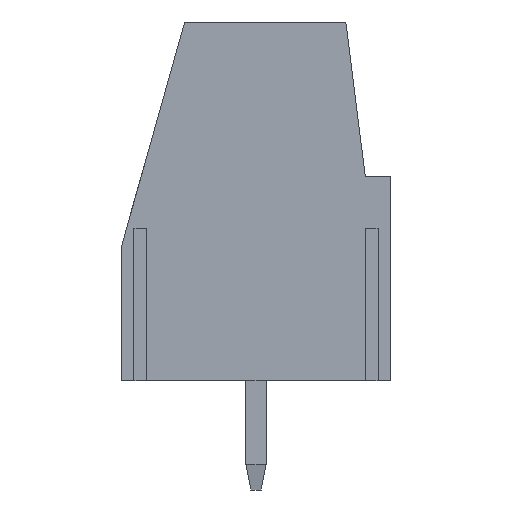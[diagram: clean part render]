
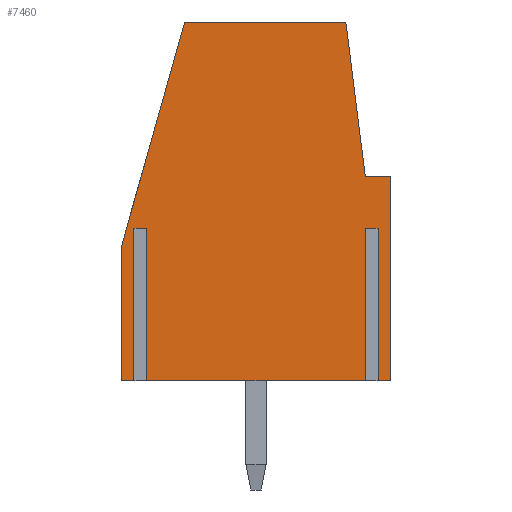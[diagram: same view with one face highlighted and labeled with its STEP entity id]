
A CAD part, left-side view. The second image highlights one B-rep face of the part: STEP entity #7460.
In plain terms, the highlighted planar face has unit normal (-1, 0, 0).
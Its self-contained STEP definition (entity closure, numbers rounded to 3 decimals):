
#285 = ORIENTED_EDGE ( 'NONE', *, *, #13137, .F. ) ;
#1071 = CARTESIAN_POINT ( 'NONE',  ( -5., 2.808, 14.1 ) ) ;
#1452 = DIRECTION ( 'NONE',  ( 0., 0., -1. ) ) ;
#1562 = EDGE_CURVE ( 'NONE', #9600, #3624, #3557, .T. ) ;
#1738 = EDGE_CURVE ( 'NONE', #4531, #14447, #10428, .T. ) ;
#1766 = ORIENTED_EDGE ( 'NONE', *, *, #15287, .F. ) ;
#2155 = CARTESIAN_POINT ( 'NONE',  ( -5., -5.3, 0. ) ) ;
#2530 = VERTEX_POINT ( 'NONE', #11000 ) ;
#2677 = VECTOR ( 'NONE', #3394, 1000. ) ;
#2718 = VECTOR ( 'NONE', #18941, 1000. ) ;
#3104 = DIRECTION ( 'NONE',  ( 0., 0., 1. ) ) ;
#3126 = LINE ( 'NONE', #3402, #7138 ) ;
#3267 = LINE ( 'NONE', #9196, #17893 ) ;
#3394 = DIRECTION ( 'NONE',  ( 0., 0., -1. ) ) ;
#3402 = CARTESIAN_POINT ( 'NONE',  ( -5., -5.3, 0. ) ) ;
#3556 = LINE ( 'NONE', #18474, #18585 ) ;
#3557 = LINE ( 'NONE', #4860, #18506 ) ;
#3624 = VERTEX_POINT ( 'NONE', #12612 ) ;
#3928 = ORIENTED_EDGE ( 'NONE', *, *, #16077, .F. ) ;
#3952 = ORIENTED_EDGE ( 'NONE', *, *, #6801, .F. ) ;
#4221 = EDGE_LOOP ( 'NONE', ( #17562, #12452, #19262, #16808, #18266, #3952, #285, #13436, #15143, #1766, #6883, #5419, #3928, #19044, #14381 ) ) ;
#4261 = CARTESIAN_POINT ( 'NONE',  ( -5., -5.3, 8.031 ) ) ;
#4531 = VERTEX_POINT ( 'NONE', #15313 ) ;
#4860 = CARTESIAN_POINT ( 'NONE',  ( -5., 4.3, 0. ) ) ;
#4911 = VERTEX_POINT ( 'NONE', #15836 ) ;
#5089 = CARTESIAN_POINT ( 'NONE',  ( -5., -5.3, 8.031 ) ) ;
#5208 = LINE ( 'NONE', #2155, #13691 ) ;
#5409 = DIRECTION ( 'NONE',  ( 0., 1., 0. ) ) ;
#5419 = ORIENTED_EDGE ( 'NONE', *, *, #1738, .F. ) ;
#5459 = EDGE_CURVE ( 'NONE', #6695, #7874, #7782, .T. ) ;
#5499 = EDGE_CURVE ( 'NONE', #14447, #9971, #11354, .T. ) ;
#5760 = CARTESIAN_POINT ( 'NONE',  ( -5., -4.296, 8.031 ) ) ;
#5913 = DIRECTION ( 'NONE',  ( 0., 0., 1. ) ) ;
#5922 = CARTESIAN_POINT ( 'NONE',  ( -5., 5.3, 5.242 ) ) ;
#6196 = VERTEX_POINT ( 'NONE', #5760 ) ;
#6390 = EDGE_CURVE ( 'NONE', #16343, #6196, #6525, .T. ) ;
#6394 = CARTESIAN_POINT ( 'NONE',  ( -5., -4.3, 6. ) ) ;
#6525 = LINE ( 'NONE', #17189, #12618 ) ;
#6695 = VERTEX_POINT ( 'NONE', #6394 ) ;
#6719 = CARTESIAN_POINT ( 'NONE',  ( -5., -4.8, 6. ) ) ;
#6801 = EDGE_CURVE ( 'NONE', #14111, #2530, #16204, .T. ) ;
#6815 = CARTESIAN_POINT ( 'NONE',  ( -5., 0., 0. ) ) ;
#6883 = ORIENTED_EDGE ( 'NONE', *, *, #5499, .F. ) ;
#6911 = DIRECTION ( 'NONE',  ( 1., 0., 0. ) ) ;
#7138 = VECTOR ( 'NONE', #9233, 1000. ) ;
#7460 = ADVANCED_FACE ( 'NONE', ( #12429 ), #8050, .F. ) ;
#7557 = DIRECTION ( 'NONE',  ( 0., 1., 0. ) ) ;
#7561 = CARTESIAN_POINT ( 'NONE',  ( -5., -5.3, 0. ) ) ;
#7782 = LINE ( 'NONE', #15400, #10096 ) ;
#7874 = VERTEX_POINT ( 'NONE', #10811 ) ;
#8005 = CARTESIAN_POINT ( 'NONE',  ( -5., 4.8, 6. ) ) ;
#8028 = DIRECTION ( 'NONE',  ( 0., -0.125, -0.992 ) ) ;
#8050 = PLANE ( 'NONE',  #17700 ) ;
#8515 = DIRECTION ( 'NONE',  ( 0., 0., -1. ) ) ;
#8520 = DIRECTION ( 'NONE',  ( 0., -0.271, 0.963 ) ) ;
#8719 = LINE ( 'NONE', #14776, #8961 ) ;
#8792 = CARTESIAN_POINT ( 'NONE',  ( -5., -3.533, 14.1 ) ) ;
#8961 = VECTOR ( 'NONE', #1452, 1000. ) ;
#9072 = CARTESIAN_POINT ( 'NONE',  ( -5., 5.3, 0. ) ) ;
#9196 = CARTESIAN_POINT ( 'NONE',  ( -5., 4.8, 6. ) ) ;
#9233 = DIRECTION ( 'NONE',  ( 0., 1., 0. ) ) ;
#9600 = VERTEX_POINT ( 'NONE', #13591 ) ;
#9775 = DIRECTION ( 'NONE',  ( 0., -1., 0. ) ) ;
#9971 = VERTEX_POINT ( 'NONE', #15565 ) ;
#9992 = DIRECTION ( 'NONE',  ( 0., -1., 0. ) ) ;
#10096 = VECTOR ( 'NONE', #10880, 1000. ) ;
#10428 = LINE ( 'NONE', #9072, #17043 ) ;
#10781 = LINE ( 'NONE', #5089, #2677 ) ;
#10811 = CARTESIAN_POINT ( 'NONE',  ( -5., -4.3, 0. ) ) ;
#10880 = DIRECTION ( 'NONE',  ( 0., 0., -1. ) ) ;
#10974 = EDGE_CURVE ( 'NONE', #6196, #14352, #3556, .T. ) ;
#11000 = CARTESIAN_POINT ( 'NONE',  ( -5., -4.8, 0. ) ) ;
#11354 = LINE ( 'NONE', #14293, #16955 ) ;
#11381 = VECTOR ( 'NONE', #12611, 1000. ) ;
#11403 = EDGE_CURVE ( 'NONE', #3624, #14519, #3267, .T. ) ;
#11621 = CARTESIAN_POINT ( 'NONE',  ( -5., -4.8, 0. ) ) ;
#11662 = CARTESIAN_POINT ( 'NONE',  ( -5., -5.3, 0. ) ) ;
#12429 = FACE_OUTER_BOUND ( 'NONE', #4221, .T. ) ;
#12452 = ORIENTED_EDGE ( 'NONE', *, *, #17936, .F. ) ;
#12611 = DIRECTION ( 'NONE',  ( 0., 1., 0. ) ) ;
#12612 = CARTESIAN_POINT ( 'NONE',  ( -5., 4.3, 6. ) ) ;
#12618 = VECTOR ( 'NONE', #8028, 1000. ) ;
#12700 = LINE ( 'NONE', #1071, #17373 ) ;
#13137 = EDGE_CURVE ( 'NONE', #14352, #14111, #10781, .T. ) ;
#13243 = EDGE_CURVE ( 'NONE', #4911, #6695, #14084, .T. ) ;
#13393 = EDGE_CURVE ( 'NONE', #2530, #4911, #16441, .T. ) ;
#13436 = ORIENTED_EDGE ( 'NONE', *, *, #10974, .F. ) ;
#13591 = CARTESIAN_POINT ( 'NONE',  ( -5., 4.3, 0. ) ) ;
#13673 = DIRECTION ( 'NONE',  ( 0., 0., 1. ) ) ;
#13691 = VECTOR ( 'NONE', #5409, 1000. ) ;
#14084 = LINE ( 'NONE', #6719, #11381 ) ;
#14111 = VERTEX_POINT ( 'NONE', #7561 ) ;
#14293 = CARTESIAN_POINT ( 'NONE',  ( -5., 5.3, 5.242 ) ) ;
#14352 = VERTEX_POINT ( 'NONE', #4261 ) ;
#14381 = ORIENTED_EDGE ( 'NONE', *, *, #11403, .F. ) ;
#14447 = VERTEX_POINT ( 'NONE', #5922 ) ;
#14519 = VERTEX_POINT ( 'NONE', #8005 ) ;
#14776 = CARTESIAN_POINT ( 'NONE',  ( -5., 4.8, 0. ) ) ;
#14850 = EDGE_CURVE ( 'NONE', #14519, #18212, #8719, .T. ) ;
#15143 = ORIENTED_EDGE ( 'NONE', *, *, #6390, .F. ) ;
#15287 = EDGE_CURVE ( 'NONE', #9971, #16343, #12700, .T. ) ;
#15313 = CARTESIAN_POINT ( 'NONE',  ( -5., 5.3, 0. ) ) ;
#15400 = CARTESIAN_POINT ( 'NONE',  ( -5., -4.3, 0. ) ) ;
#15565 = CARTESIAN_POINT ( 'NONE',  ( -5., 2.808, 14.1 ) ) ;
#15836 = CARTESIAN_POINT ( 'NONE',  ( -5., -4.8, 6. ) ) ;
#16077 = EDGE_CURVE ( 'NONE', #18212, #4531, #3126, .T. ) ;
#16204 = LINE ( 'NONE', #11662, #2718 ) ;
#16343 = VERTEX_POINT ( 'NONE', #8792 ) ;
#16441 = LINE ( 'NONE', #11621, #18886 ) ;
#16749 = CARTESIAN_POINT ( 'NONE',  ( -5., 4.8, 0. ) ) ;
#16808 = ORIENTED_EDGE ( 'NONE', *, *, #13243, .F. ) ;
#16955 = VECTOR ( 'NONE', #8520, 1000. ) ;
#17043 = VECTOR ( 'NONE', #5913, 1000. ) ;
#17189 = CARTESIAN_POINT ( 'NONE',  ( -5., -3.533, 14.1 ) ) ;
#17373 = VECTOR ( 'NONE', #9992, 1000. ) ;
#17562 = ORIENTED_EDGE ( 'NONE', *, *, #1562, .F. ) ;
#17700 = AXIS2_PLACEMENT_3D ( 'NONE', #6815, #6911, #8515 ) ;
#17893 = VECTOR ( 'NONE', #7557, 1000. ) ;
#17936 = EDGE_CURVE ( 'NONE', #7874, #9600, #5208, .T. ) ;
#18212 = VERTEX_POINT ( 'NONE', #16749 ) ;
#18266 = ORIENTED_EDGE ( 'NONE', *, *, #13393, .F. ) ;
#18474 = CARTESIAN_POINT ( 'NONE',  ( -5., -4.296, 8.031 ) ) ;
#18506 = VECTOR ( 'NONE', #13673, 1000. ) ;
#18585 = VECTOR ( 'NONE', #9775, 1000. ) ;
#18886 = VECTOR ( 'NONE', #3104, 1000. ) ;
#18941 = DIRECTION ( 'NONE',  ( 0., 1., 0. ) ) ;
#19044 = ORIENTED_EDGE ( 'NONE', *, *, #14850, .F. ) ;
#19262 = ORIENTED_EDGE ( 'NONE', *, *, #5459, .F. ) ;
